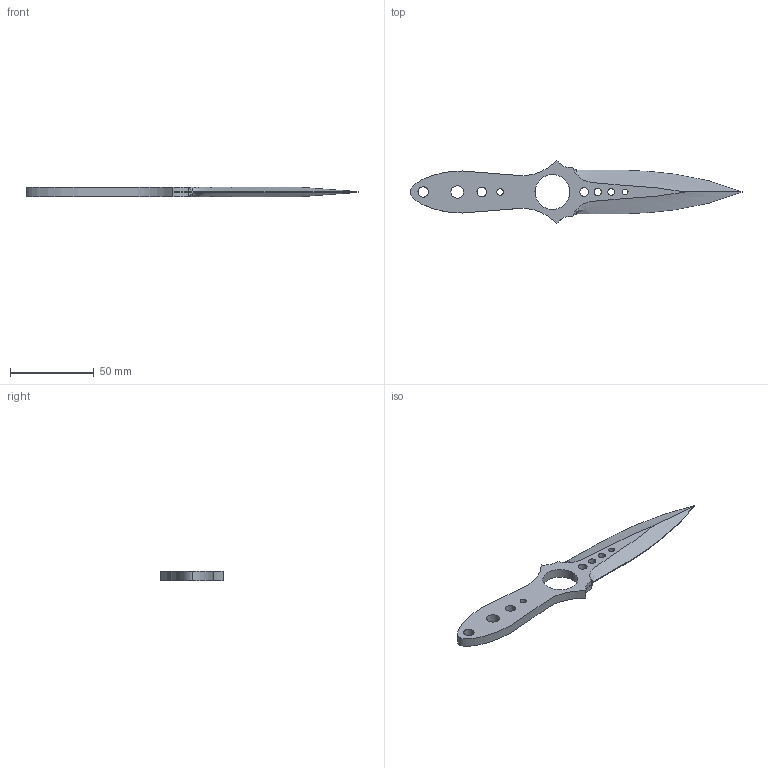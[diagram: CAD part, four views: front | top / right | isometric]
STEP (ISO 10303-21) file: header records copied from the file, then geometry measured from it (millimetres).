
FILE_DESCRIPTION (( 'STEP AP203' ), '1' );
FILE_NAME ('鷐鷖堸忑(Skeleton Knife).STEP', '2024-02-17T03:18:06', ( '' ), ( '' ), 'SwSTEP 2.0', 'SolidWorks 2020', '' );
FILE_SCHEMA (( 'CONFIG_CONTROL_DESIGN' ));
Length unit declared in the file: millimetre
Products named in the file (1): 鷐鷖堸忑(Skeleton Knife)
Bounding box: 198.05 x 37.24 x 5.5 mm (x, y, z)
Volume: 16403.7 mm3; surface area: 9926.9 mm2
Topology: 1 solids, 1 shells, 44 faces, 112 edges, 66 vertices
Faces by surface type: bspline 24, cylinder 18, plane 2
Entity records: 5005 total; most frequent: CARTESIAN_POINT 3963, ORIENTED_EDGE 216, DIRECTION 154, EDGE_CURVE 108, VERTEX_POINT 66, EDGE_LOOP 62, AXIS2_PLACEMENT_3D 57, ADVANCED_FACE 44
